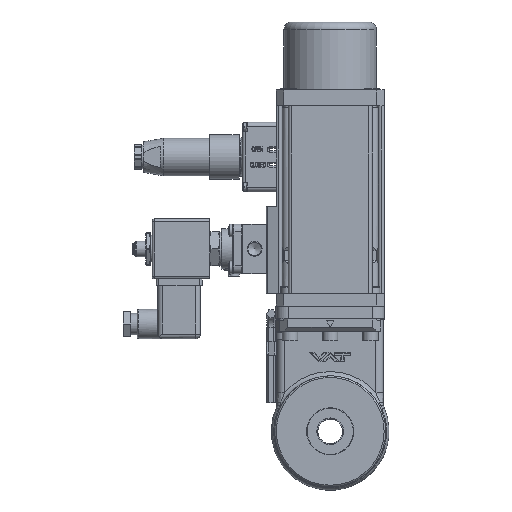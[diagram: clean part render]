
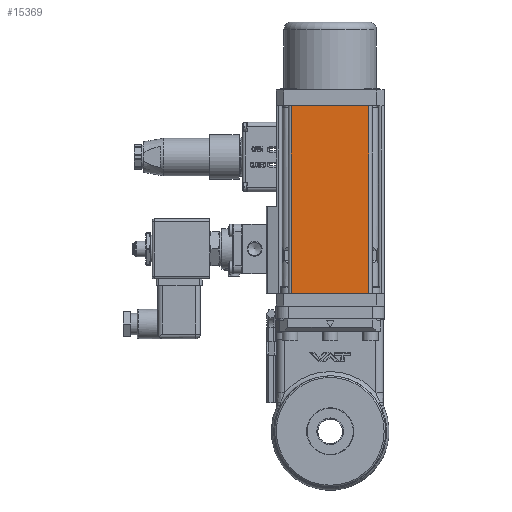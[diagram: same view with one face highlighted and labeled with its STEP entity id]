
A CAD part, top view. The second image highlights one B-rep face of the part: STEP entity #15369.
In plain terms, the highlighted planar face has unit normal (0, 0, 1) as drawn and (0, -1, 0) by its records, which use the part's own axes.
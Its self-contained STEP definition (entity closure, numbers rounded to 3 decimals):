
#6594=FACE_OUTER_BOUND('',#18575,.T.);
#7800=LINE('',#45443,#9625);
#7823=LINE('',#45528,#9648);
#7828=LINE('',#45551,#9653);
#7829=LINE('',#45553,#9654);
#9625=VECTOR('',#38008,1.);
#9648=VECTOR('',#38097,1.);
#9653=VECTOR('',#38122,1.);
#9654=VECTOR('',#38125,1.);
#14409=PLANE('',#35198);
#15369=ADVANCED_FACE('',(#6594),#14409,.F.);
#18575=EDGE_LOOP('',(#21208,#21209,#21210,#21211));
#21208=ORIENTED_EDGE('',*,*,#30668,.F.);
#21209=ORIENTED_EDGE('',*,*,#30680,.F.);
#21210=ORIENTED_EDGE('',*,*,#30623,.T.);
#21211=ORIENTED_EDGE('',*,*,#30681,.T.);
#28051=VERTEX_POINT('',#45442);
#28052=VERTEX_POINT('',#45444);
#28080=VERTEX_POINT('',#45527);
#28081=VERTEX_POINT('',#45529);
#30623=EDGE_CURVE('',#28052,#28051,#7800,.T.);
#30668=EDGE_CURVE('',#28080,#28081,#7823,.T.);
#30680=EDGE_CURVE('',#28052,#28080,#7828,.T.);
#30681=EDGE_CURVE('',#28051,#28081,#7829,.T.);
#35198=AXIS2_PLACEMENT_3D('',#45554,#38126,#38127);
#38008=DIRECTION('',(1.,0.,0.));
#38097=DIRECTION('',(1.,0.,0.));
#38122=DIRECTION('',(0.,0.,1.));
#38125=DIRECTION('',(0.,0.,1.));
#38126=DIRECTION('',(0.,1.,0.));
#38127=DIRECTION('',(0.,0.,-1.));
#45442=CARTESIAN_POINT('',(25.079,-35.,-121.65));
#45443=CARTESIAN_POINT('',(-25.079,-35.,-121.65));
#45444=CARTESIAN_POINT('',(-25.079,-35.,-121.65));
#45527=CARTESIAN_POINT('',(-25.079,-35.,0.));
#45528=CARTESIAN_POINT('',(-25.079,-35.,0.));
#45529=CARTESIAN_POINT('',(25.079,-35.,0.));
#45551=CARTESIAN_POINT('',(-25.079,-35.,-121.65));
#45553=CARTESIAN_POINT('',(25.079,-35.,-121.65));
#45554=CARTESIAN_POINT('',(-25.079,-35.,-121.65));
